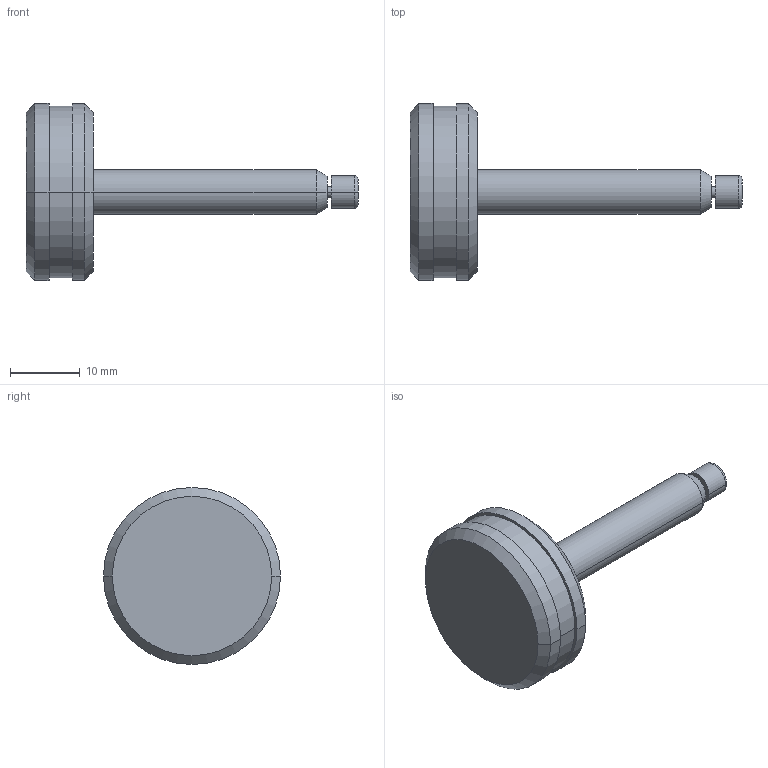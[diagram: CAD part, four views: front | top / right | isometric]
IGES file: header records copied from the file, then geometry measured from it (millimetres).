
Start section:  PTC IGES file: sch329-part.igs
Global section: file name: sch329-part.igs; native system: Pro/ENGINEER by Parametric Technology Corporation; preprocessor: 2002350; author: chant; organization: Unknown; date: 070529.150540; units: inch
Bounding box: 47.62 x 25.4 x 25.4 mm (x, y, z)
Surface area: 2492.7 mm2 (no closed solid volume)
Topology: 0 solids, 0 shells, 33 faces, 172 edges, 194 vertices
Faces by surface type: revolution 26, bspline 7
